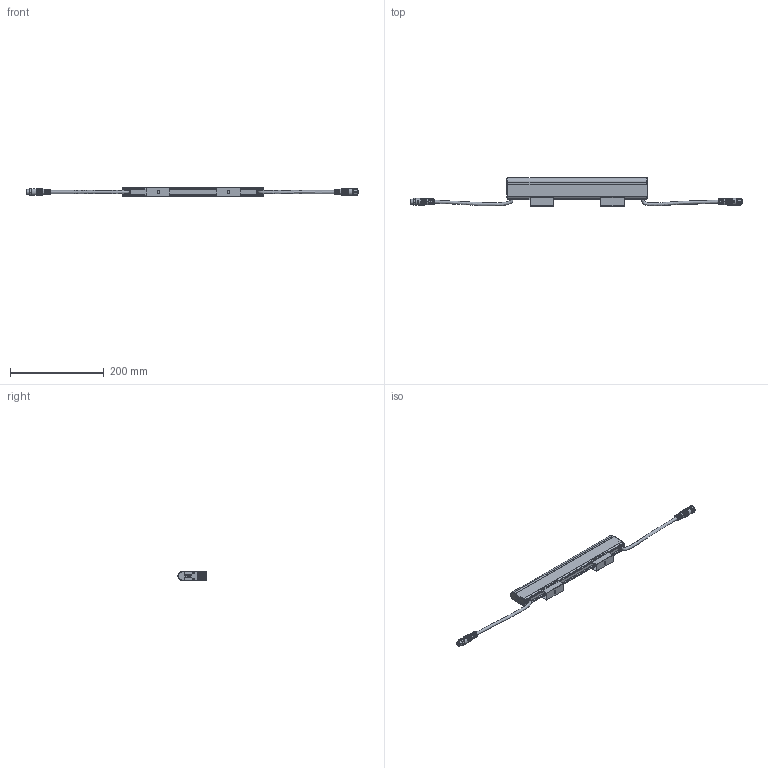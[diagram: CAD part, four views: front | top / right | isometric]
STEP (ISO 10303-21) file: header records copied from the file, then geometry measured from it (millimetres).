
FILE_DESCRIPTION (( 'STEP AP214' ), '1' );
FILE_NAME ('DiGi Linear V-Series L300 Round.STEP', '2025-07-22T11:41:43', ( '' ), ( '' ), 'SwSTEP 2.0', 'SolidWorks 2025', '' );
FILE_SCHEMA (( 'AUTOMOTIVE_DESIGN' ));
Length unit declared in the file: millimetre
Products named in the file (7): DiGi Linear V-serie - Body_L300 Round; DiGi Linear V-serie - Clip; DiGi Linear V-serie - Cabling_L300; M12 3p Female; M12 3p Male; Counter sunk screw torx_M2x6; DiGi Linear V-Series L300 Round
Assembly tree (10 placements, depth 2):
  DiGi Linear V-Series L300 Round
    DiGi Linear V-serie - Body_L300 Round
    DiGi Linear V-serie - Clip  x2
    M12 3p Male
    M12 3p Female
    DiGi Linear V-serie - Cabling_L300
    Counter sunk screw torx_M2x6  x4
Bounding box: 707.4 x 59.99 x 18.3 mm (x, y, z)
Volume: 250241.9 mm3; surface area: 68056.2 mm2
Topology: 13 solids, 13 shells, 1274 faces, 3201 edges, 2000 vertices
Faces by surface type: plane 490, cylinder 349, bspline 184, torus 163, cone 80, sphere 8
Full cylindrical faces by diameter (mm): 2 x4, 2.4 x4, 3 x4, 6.5 x6, 9.7 x1, 10 x2, 10.8 x1, 12.3 x1, 14.3 x2
Entity records: 53678 total; most frequent: CARTESIAN_POINT 17164, ORIENTED_EDGE 5778, DIRECTION 4771, EDGE_CURVE 2889, VERTEX_POINT 1816, AXIS2_PLACEMENT_3D 1797, EDGE_LOOP 1269, FACE_OUTER_BOUND 1198
